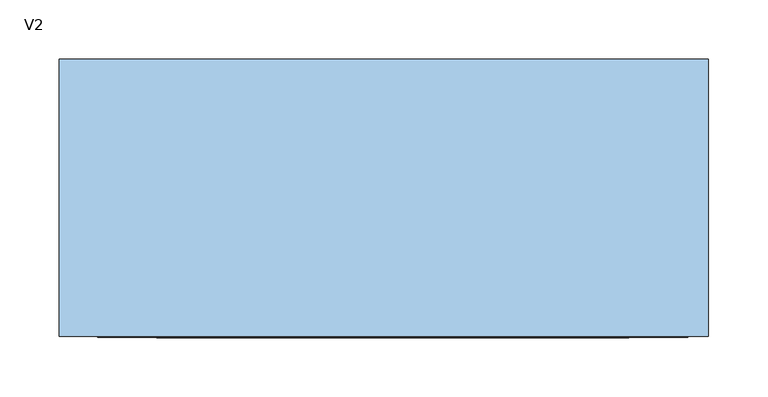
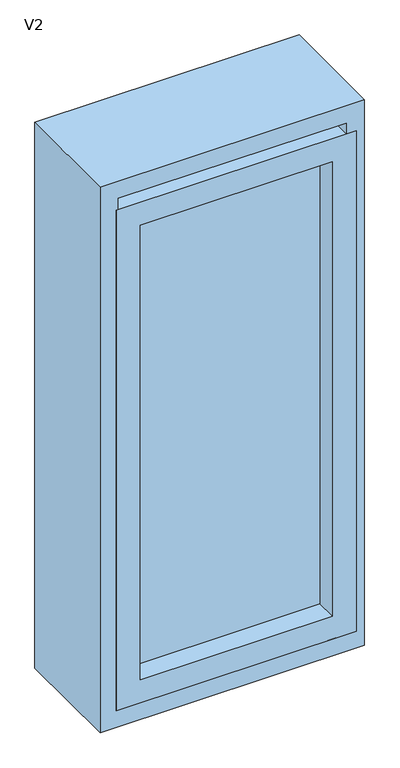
"""IFC4 building model written with IfcOpenShell, lengths in millimetres: window geometry, Ventana batiente horizontal V2 : V2."""

from ifc_helpers import new_model, si_unit, frame, origin, place, context, project, spatial, polyline, outline, extrude, faceted_brep, source, transform, mapped, element, save


def v2_0e290be6(model_context):
    return source(origin(), model_context, "Body", "SolidModel", [
        faceted_brep([(-244.7136171, 65.0, 1924.0), (-244.7136171, -75.0, 1924.0), (-244.7136171, -75.0, 800.0), (-244.7136171, 65.0, 800.0), (-282.7136171, -75.0, 762.0), (267.2863829, -75.0, 762.0), (267.2863829, -75.0, 1962.0), (-282.7136171, -75.0, 1962.0), (229.2863829, -75.0, 1924.0), (229.2863829, -75.0, 800.0), (229.2863829, 65.0, 800.0), (-263.7136171, 65.0, 1943.0), (248.2863829, 65.0, 1943.0), (248.2863829, 65.0, 781.0), (-263.7136171, 65.0, 781.0), (229.2863829, 65.0, 1924.0), (-263.7136171, 160.0, 1943.0), (-263.7136171, 160.0, 781.0), (248.2863829, 160.0, 781.0), (-282.7136171, 160.0, 1962.0), (267.2863829, 160.0, 1962.0), (267.2863829, 160.0, 762.0), (-282.7136171, 160.0, 762.0), (248.2863829, 160.0, 1943.0)], [[[0, 1, 2, 3]], [[4, 5, 6, 7], [1, 8, 9, 2]], [[3, 2, 9, 10]], [[11, 12, 13, 14], [3, 10, 15, 0]], [[16, 11, 14, 17]], [[17, 14, 13, 18]], [[19, 20, 21, 22], [17, 18, 23, 16]], [[7, 19, 22, 4]], [[4, 22, 21, 5]], [[10, 9, 8, 15]], [[18, 13, 12, 23]], [[5, 21, 20, 6]], [[15, 8, 1, 0]], [[23, 12, 11, 16]], [[6, 20, 19, 7]]]),
        extrude(outline(polyline([(200.0, -31.0), (-200.0, -31.0), (-200.0, -26.0), (200.0, -26.0), (200.0, -31.0)])), frame((0.0, 0.0, 850.0), z_axis=(0.0, 0.0, 1.0), x_axis=(1.0, 0.0, 0.0)), (0.0, 0.0, 1.0), 1000.0),
        extrude(outline(polyline([(1900.0, -250.0), (800.0, -250.0), (800.0, 250.0), (1900.0, 250.0), (1900.0, -250.0)]), holes=[polyline([(1850.0, -200.0), (1850.0, 200.0), (850.0, 200.0), (850.0, -200.0), (1850.0, -200.0)])]), frame((0.0, -76.0, 0.0), z_axis=(0.0, 1.0, 0.0), x_axis=(0.0, 0.0, 1.0)), (0.0, 0.0, 1.0), 100.0),
    ])


if __name__ == "__main__":
    model = new_model("IFC4")
    model_context = context("Model", 3, world=origin())
    ifc_project = project(units=[si_unit("LENGTHUNIT", "METRE", prefix="MILLI")], contexts=[model_context])
    site = spatial("IfcSite", under=ifc_project)
    building = spatial("IfcBuilding", under=site)
    placement = place(None, origin())
    v2_shape = v2_0e290be6(model_context)
    element("IfcWindow", 1, ObjectType="Ventana batiente horizontal V2 : V2", at=placement, inside=building, context=model_context, shape_type="MappedRepresentation", body=[
        mapped(v2_shape, transform((0.0, 0.0, 0.0), x_axis=(1.0, 0.0, 0.0), y_axis=(0.0, 1.0, 0.0), z_axis=(0.0, 0.0, 1.0))),
    ])
    save(model, "model.ifc")
